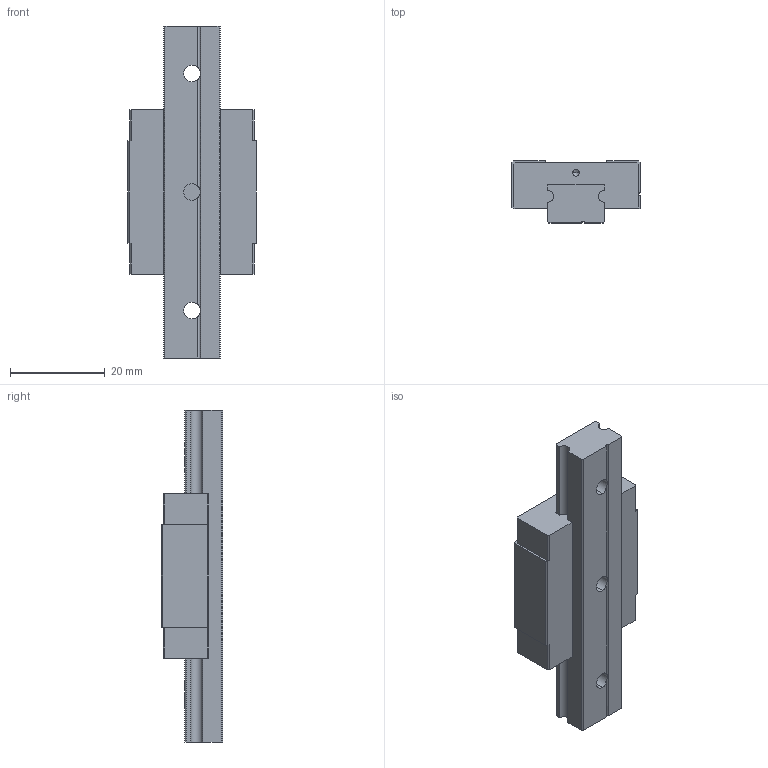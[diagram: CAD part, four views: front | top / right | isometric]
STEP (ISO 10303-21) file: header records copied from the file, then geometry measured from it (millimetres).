
FILE_DESCRIPTION (( 'STEP AP203' ), '1' );
FILE_NAME ('MGN12C_1.STEP', '2021-11-16T10:57:01', ( '' ), ( '' ), 'SwSTEP 2.0', 'SolidWorks 2019', '' );
FILE_SCHEMA (( 'CONFIG_CONTROL_DESIGN' ));
Length unit declared in the file: millimetre
Products named in the file (1): MGN12C_1
Bounding box: 27 x 13 x 70 mm (x, y, z)
Volume: 12941.6 mm3; surface area: 7037.2 mm2
Topology: 2 solids, 2 shells, 177 faces, 489 edges, 316 vertices
Faces by surface type: plane 97, bspline 35, cylinder 33, cone 12
Entity records: 6383 total; most frequent: CARTESIAN_POINT 2026, ORIENTED_EDGE 954, DIRECTION 759, EDGE_CURVE 477, VECTOR 335, LINE 335, VERTEX_POINT 316, AXIS2_PLACEMENT_3D 212
